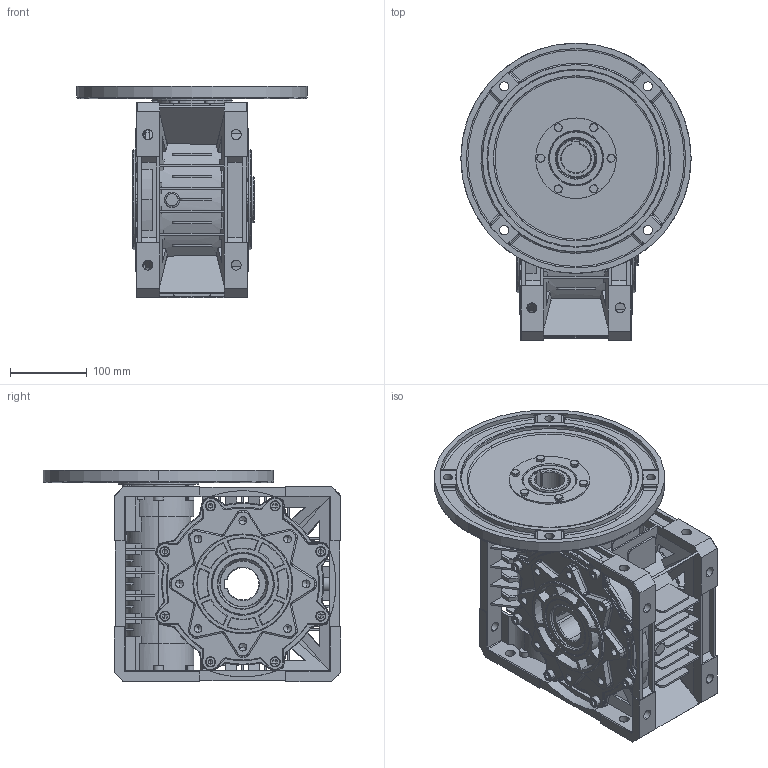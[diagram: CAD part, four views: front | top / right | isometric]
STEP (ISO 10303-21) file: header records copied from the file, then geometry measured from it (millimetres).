
FILE_DESCRIPTION (( 'STEP AP203' ), '1' );
FILE_NAME ('3F021185.STEP', '2012-07-26T08:29:32', ( 'Amministratore' ), ( 'SerteK sas' ), 'SwSTEP 2.0', 'SolidWorks 2009', '' );
FILE_SCHEMA (( 'CONFIG_CONTROL_DESIGN' ));
Length unit declared in the file: millimetre
Products named in the file (1): 3F021185
Bounding box: 300 x 387.5 x 275.5 mm (x, y, z)
Surface area: 994625.7 mm2 (no closed solid volume)
Topology: 0 solids, 29 shells, 2578 faces, 7127 edges, 4527 vertices
Faces by surface type: plane 1099, cylinder 780, bspline 431, cone 268
Entity records: 115036 total; most frequent: CARTESIAN_POINT 54529, ORIENTED_EDGE 14002, DIRECTION 10727, EDGE_CURVE 7017, VERTEX_POINT 4527, AXIS2_PLACEMENT_3D 3688, VECTOR 3351, LINE 3351
